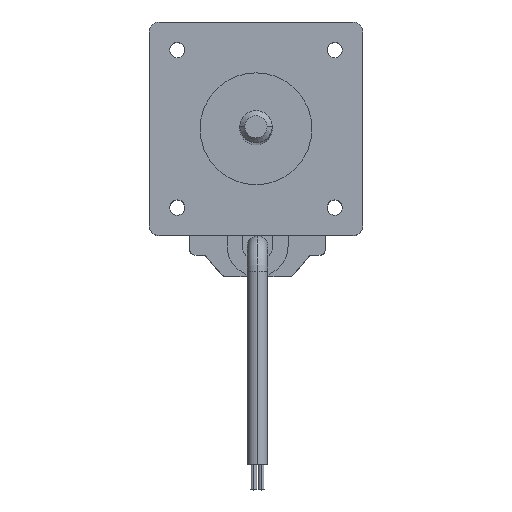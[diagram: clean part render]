
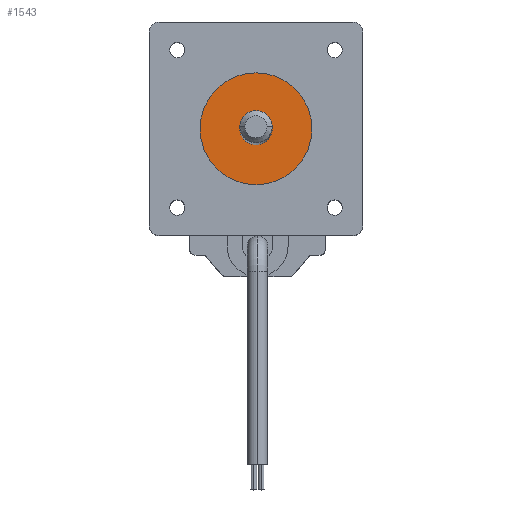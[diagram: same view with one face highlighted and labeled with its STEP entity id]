
A CAD part, top view. The second image highlights one B-rep face of the part: STEP entity #1543.
In plain terms, the highlighted planar face has unit normal (0, 0, 1).
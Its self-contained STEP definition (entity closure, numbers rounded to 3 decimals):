
#17 = AXIS2_PLACEMENT_3D ( 'NONE', #968, #3905, #64 ) ;
#64 = DIRECTION ( 'NONE',  ( 1., 0., 0. ) ) ;
#211 = CARTESIAN_POINT ( 'NONE',  ( 0., 0., 50. ) ) ;
#273 = CARTESIAN_POINT ( 'NONE',  ( 0., 0., 50. ) ) ;
#290 = EDGE_CURVE ( 'NONE', #2647, #4189, #2445, .T. ) ;
#444 = DIRECTION ( 'NONE',  ( 0., 0., 1. ) ) ;
#599 = ORIENTED_EDGE ( 'NONE', *, *, #290, .T. ) ;
#631 = CARTESIAN_POINT ( 'NONE',  ( 11., 0., 50. ) ) ;
#649 = CIRCLE ( 'NONE', #2077, 11. ) ;
#766 = CARTESIAN_POINT ( 'NONE',  ( 0., 0., 50. ) ) ;
#777 = DIRECTION ( 'NONE',  ( 1., 0., 0. ) ) ;
#810 = EDGE_CURVE ( 'NONE', #4531, #1977, #4146, .T. ) ;
#957 = ORIENTED_EDGE ( 'NONE', *, *, #1107, .T. ) ;
#968 = CARTESIAN_POINT ( 'NONE',  ( 0., 0., 50. ) ) ;
#1107 = EDGE_CURVE ( 'NONE', #4189, #2647, #649, .T. ) ;
#1129 = ORIENTED_EDGE ( 'NONE', *, *, #810, .F. ) ;
#1173 = FACE_BOUND ( 'NONE', #1726, .T. ) ;
#1282 = AXIS2_PLACEMENT_3D ( 'NONE', #273, #2722, #3729 ) ;
#1543 = ADVANCED_FACE ( 'NONE', ( #1173, #2601 ), #3464, .T. ) ;
#1726 = EDGE_LOOP ( 'NONE', ( #3008, #1129 ) ) ;
#1977 = VERTEX_POINT ( 'NONE', #3507 ) ;
#2077 = AXIS2_PLACEMENT_3D ( 'NONE', #766, #444, #777 ) ;
#2386 = AXIS2_PLACEMENT_3D ( 'NONE', #211, #2646, #3013 ) ;
#2445 = CIRCLE ( 'NONE', #1282, 11. ) ;
#2601 = FACE_OUTER_BOUND ( 'NONE', #3542, .T. ) ;
#2646 = DIRECTION ( 'NONE',  ( 0., 0., 1. ) ) ;
#2647 = VERTEX_POINT ( 'NONE', #3402 ) ;
#2722 = DIRECTION ( 'NONE',  ( 0., 0., 1. ) ) ;
#3008 = ORIENTED_EDGE ( 'NONE', *, *, #3848, .F. ) ;
#3013 = DIRECTION ( 'NONE',  ( 1., 0., 0. ) ) ;
#3251 = AXIS2_PLACEMENT_3D ( 'NONE', #4052, #3450, #3475 ) ;
#3402 = CARTESIAN_POINT ( 'NONE',  ( -11., 0., 50. ) ) ;
#3450 = DIRECTION ( 'NONE',  ( 0., 0., 1. ) ) ;
#3464 = PLANE ( 'NONE',  #17 ) ;
#3475 = DIRECTION ( 'NONE',  ( 1., 0., 0. ) ) ;
#3507 = CARTESIAN_POINT ( 'NONE',  ( 3.175, 0., 50. ) ) ;
#3531 = CARTESIAN_POINT ( 'NONE',  ( -3.175, 0., 50. ) ) ;
#3542 = EDGE_LOOP ( 'NONE', ( #599, #957 ) ) ;
#3729 = DIRECTION ( 'NONE',  ( 1., 0., 0. ) ) ;
#3730 = CIRCLE ( 'NONE', #2386, 3.175 ) ;
#3848 = EDGE_CURVE ( 'NONE', #1977, #4531, #3730, .T. ) ;
#3905 = DIRECTION ( 'NONE',  ( 0., 0., 1. ) ) ;
#4052 = CARTESIAN_POINT ( 'NONE',  ( 0., 0., 50. ) ) ;
#4146 = CIRCLE ( 'NONE', #3251, 3.175 ) ;
#4189 = VERTEX_POINT ( 'NONE', #631 ) ;
#4531 = VERTEX_POINT ( 'NONE', #3531 ) ;
